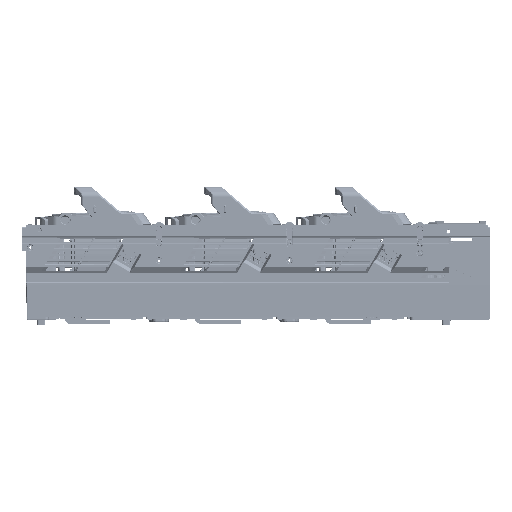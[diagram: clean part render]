
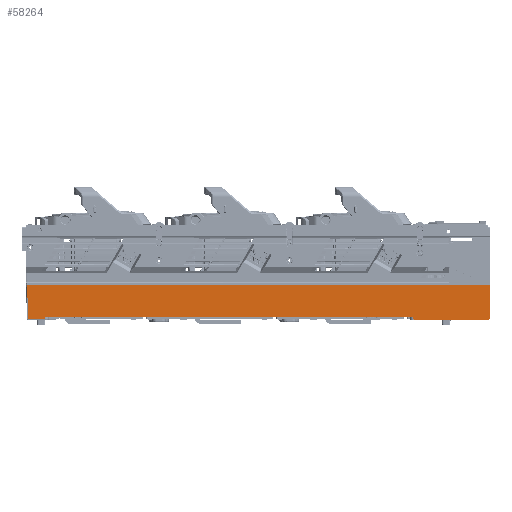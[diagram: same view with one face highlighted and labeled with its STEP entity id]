
A CAD part, left-side view. The second image highlights one B-rep face of the part: STEP entity #58264.
In plain terms, the highlighted planar face has unit normal (-1, 0, -0.015).
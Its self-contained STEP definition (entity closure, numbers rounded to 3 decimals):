
#4419=CARTESIAN_POINT('',(-48.757,-284.006,
0.493));
#6658=CARTESIAN_POINT('',(-49.493,371.794,49.5));
#9068=DIRECTION('',(0.,1.,0.));
#9069=VECTOR('',#9068,107.815);
#9070=CARTESIAN_POINT('',(-48.757,-284.006,
0.493));
#9071=LINE('',#9070,#9069);
#9072=DIRECTION('',(-0.015,0.017,1.));
#9073=VECTOR('',#9072,4.097);
#9074=CARTESIAN_POINT('',(-48.757,-176.191,
0.493));
#9075=LINE('',#9074,#9073);
#9076=DIRECTION('',(0.,-1.,0.));
#9077=VECTOR('',#9076,522.379);
#9078=CARTESIAN_POINT('',(-48.819,346.259,4.588));
#9079=LINE('',#9078,#9077);
#9080=DIRECTION('',(-0.015,-0.009,1.));
#9081=VECTOR('',#9080,3.604);
#9082=CARTESIAN_POINT('',(-48.765,346.291,
0.985));
#9083=LINE('',#9082,#9081);
#9084=DIRECTION('',(0.,-1.,0.));
#9085=VECTOR('',#9084,24.921);
#9086=CARTESIAN_POINT('',(-48.765,371.212,
0.985));
#9087=LINE('',#9086,#9085);
#9088=DIRECTION('',(0.015,-0.012,-1.));
#9089=VECTOR('',#9088,48.524);
#9090=CARTESIAN_POINT('',(-49.493,371.794,49.5));
#9091=LINE('',#9090,#9089);
#9092=DIRECTION('',(0.,-1.,0.));
#9093=VECTOR('',#9092,656.388);
#9094=CARTESIAN_POINT('',(-49.493,371.794,49.5));
#9095=LINE('',#9094,#9093);
#9096=DIRECTION('',(0.015,0.012,-1.));
#9097=VECTOR('',#9096,49.017);
#9098=CARTESIAN_POINT('',(-49.493,-284.594,49.5));
#9099=LINE('',#9098,#9097);
#14865=CARTESIAN_POINT('',(-48.765,346.291,
0.985));
#14896=CARTESIAN_POINT('',(-48.757,-176.191,
0.493));
#46293=CARTESIAN_POINT('',(-49.493,-284.594,49.5));
#46294=VERTEX_POINT('',#46293);
#46295=CARTESIAN_POINT('',(-48.819,346.259,
4.588));
#46296=CARTESIAN_POINT('',(-48.819,-176.119,
4.588));
#46297=VERTEX_POINT('',#46295);
#46298=VERTEX_POINT('',#46296);
#46300=VERTEX_POINT('',#6658);
#46301=CARTESIAN_POINT('',(-48.765,371.212,
0.985));
#46302=VERTEX_POINT('',#46301);
#47560=VERTEX_POINT('',#14865);
#48226=VERTEX_POINT('',#14896);
#48227=VERTEX_POINT('',#4419);
#58244=CARTESIAN_POINT('',(-49.5,369.7,50.));
#58245=DIRECTION('',(1.,0.,0.015));
#58246=DIRECTION('',(0.,-1.,0.));
#58247=AXIS2_PLACEMENT_3D('',#58244,#58245,#58246);
#58248=PLANE('',#58247);
#58250=ORIENTED_EDGE('',*,*,#58249,.T.);
#58252=ORIENTED_EDGE('',*,*,#58251,.T.);
#58254=ORIENTED_EDGE('',*,*,#58253,.F.);
#58256=ORIENTED_EDGE('',*,*,#58255,.F.);
#58258=ORIENTED_EDGE('',*,*,#58257,.F.);
#58259=ORIENTED_EDGE('',*,*,#58237,.F.);
#58260=ORIENTED_EDGE('',*,*,#54816,.T.);
#58261=ORIENTED_EDGE('',*,*,#51779,.T.);
#58262=EDGE_LOOP('',(#58250,#58252,#58254,#58256,#58258,#58259,#58260,#58261));
#58263=FACE_OUTER_BOUND('',#58262,.F.);
#58264=ADVANCED_FACE('',(#58263),#58248,.F.);
#51779=EDGE_CURVE('',#46294,#48227,#9099,.T.);
#54816=EDGE_CURVE('',#46300,#46294,#9095,.T.);
#58237=EDGE_CURVE('',#46300,#46302,#9091,.T.);
#58249=EDGE_CURVE('',#48227,#48226,#9071,.T.);
#58251=EDGE_CURVE('',#48226,#46298,#9075,.T.);
#58253=EDGE_CURVE('',#46297,#46298,#9079,.T.);
#58255=EDGE_CURVE('',#47560,#46297,#9083,.T.);
#58257=EDGE_CURVE('',#46302,#47560,#9087,.T.);
